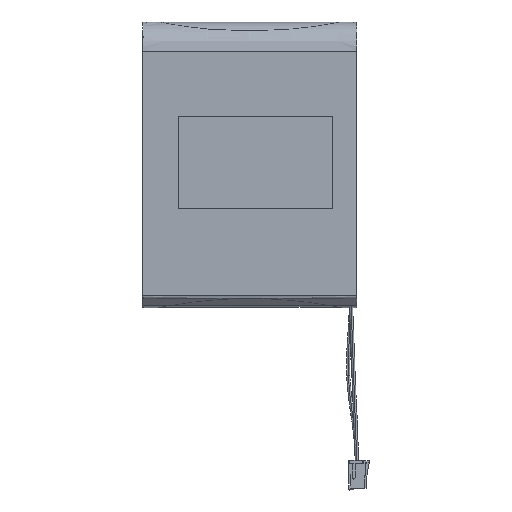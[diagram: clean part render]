
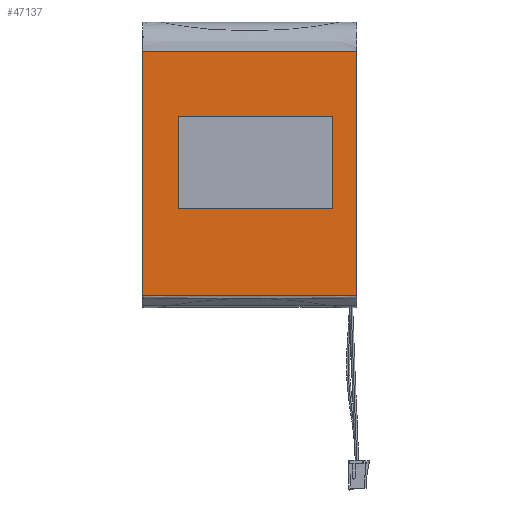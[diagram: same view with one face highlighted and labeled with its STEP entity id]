
A CAD part, top view. The second image highlights one B-rep face of the part: STEP entity #47137.
In plain terms, the highlighted free-form (B-spline) face has degree [3, 3] with [4, 4] control points.
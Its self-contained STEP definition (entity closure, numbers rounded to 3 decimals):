
#46152=DIRECTION('',(1.,0.,0.));
#46153=VECTOR('',#46152,69.31);
#46154=CARTESIAN_POINT('',(0.,4.006,
18.722));
#46155=LINE('',#46154,#46153);
#46159=DIRECTION('',(0.,1.,0.));
#46160=VECTOR('',#46159,79.1);
#46161=CARTESIAN_POINT('',(69.31,4.006,18.722));
#46162=LINE('',#46161,#46160);
#46166=DIRECTION('',(0.,-1.,0.));
#46167=VECTOR('',#46166,79.1);
#46168=CARTESIAN_POINT('',(0.,83.106,
18.721));
#46169=LINE('',#46168,#46167);
#46173=DIRECTION('',(-1.,0.,0.));
#46174=VECTOR('',#46173,69.31);
#46175=CARTESIAN_POINT('',(69.31,83.106,18.721));
#46176=LINE('',#46175,#46174);
#46771=CARTESIAN_POINT('',(69.31,4.006,18.722));
#46773=VERTEX_POINT('',#46771);
#46788=CARTESIAN_POINT('',(69.31,83.106,18.721));
#46789=VERTEX_POINT('',#46788);
#46795=CARTESIAN_POINT('',(0.,4.006,
18.722));
#46796=VERTEX_POINT('',#46795);
#46822=CARTESIAN_POINT('',(0.,83.106,
18.721));
#46823=VERTEX_POINT('',#46822);
#47113=CARTESIAN_POINT('',(70.696,2.424,18.722));
#47114=CARTESIAN_POINT('',(46.669,2.424,18.722));
#47115=CARTESIAN_POINT('',(22.641,2.424,18.722));
#47116=CARTESIAN_POINT('',(-1.386,2.424,
18.722));
#47117=CARTESIAN_POINT('',(70.696,29.846,18.721));
#47118=CARTESIAN_POINT('',(46.669,29.846,18.721));
#47119=CARTESIAN_POINT('',(22.641,29.846,18.721));
#47120=CARTESIAN_POINT('',(-1.386,29.846,
18.721));
#47121=CARTESIAN_POINT('',(70.696,57.267,18.721));
#47122=CARTESIAN_POINT('',(46.669,57.267,18.721));
#47123=CARTESIAN_POINT('',(22.641,57.267,18.721));
#47124=CARTESIAN_POINT('',(-1.386,57.267,
18.721));
#47125=CARTESIAN_POINT('',(70.696,84.688,18.721));
#47126=CARTESIAN_POINT('',(46.669,84.688,18.721));
#47127=CARTESIAN_POINT('',(22.641,84.688,18.721));
#47128=CARTESIAN_POINT('',(-1.386,84.688,
18.721));
#47129=B_SPLINE_SURFACE_WITH_KNOTS('',3,3,((#47113,#47114,#47115,#47116),
(#47117,#47118,#47119,#47120),(#47121,#47122,#47123,#47124),(#47125,#47126,
#47127,#47128)),.UNSPECIFIED.,.F.,.F.,.F.,(4,4),(4,4),(-0.033,
3.205),(-0.055,2.783),.UNSPECIFIED.);
#47130=ORIENTED_EDGE('',*,*,#46920,.T.);
#47131=ORIENTED_EDGE('',*,*,#46903,.T.);
#47133=ORIENTED_EDGE('',*,*,#47132,.T.);
#47134=ORIENTED_EDGE('',*,*,#47096,.T.);
#47135=EDGE_LOOP('',(#47130,#47131,#47133,#47134));
#47136=FACE_OUTER_BOUND('',#47135,.F.);
#46903=EDGE_CURVE('',#46773,#46789,#46162,.T.);
#46920=EDGE_CURVE('',#46796,#46773,#46155,.T.);
#47096=EDGE_CURVE('',#46823,#46796,#46169,.T.);
#47132=EDGE_CURVE('',#46789,#46823,#46176,.T.);
#47137=ADVANCED_FACE('',(#47136),#47129,.F.);
